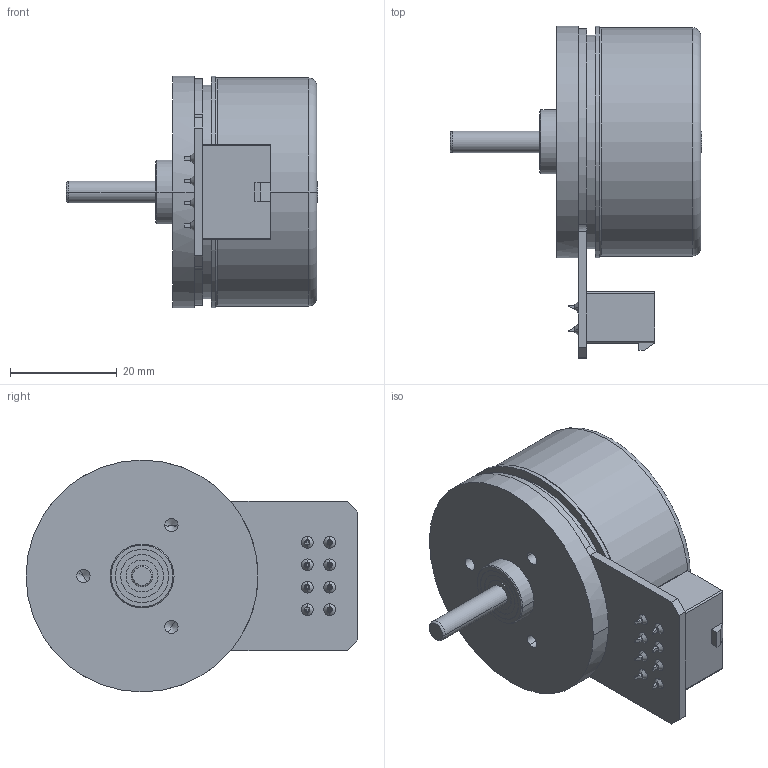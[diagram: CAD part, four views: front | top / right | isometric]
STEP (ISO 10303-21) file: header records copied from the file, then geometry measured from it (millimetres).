
FILE_DESCRIPTION((''),'2;1');
FILE_NAME('5663951','2020-04-20T',('MMAGVISI'),(''),'CREO PARAMETRIC BY PTC INC, 2017300','CREO PARAMETRIC BY PTC INC, 2017300','');
FILE_SCHEMA(('CONFIG_CONTROL_DESIGN'));
Length unit declared in the file: millimetre
Products named in the file (1): 5663951
Bounding box: 47.2 x 62.25 x 43.5 mm (x, y, z)
Volume: 41377.2 mm3; surface area: 10649.6 mm2
Topology: 1 solids, 1 shells, 238 faces, 561 edges, 363 vertices
Faces by surface type: plane 171, cylinder 33, cone 26, revolution 4, torus 4
Entity records: 8540 total; most frequent: CARTESIAN_POINT 1198, DIRECTION 1139, ORIENTED_EDGE 1110, PRESENTATION_STYLE_ASSIGNMENT 556, STYLED_ITEM 556, CURVE_STYLE 555, EDGE_CURVE 555, VECTOR 435
